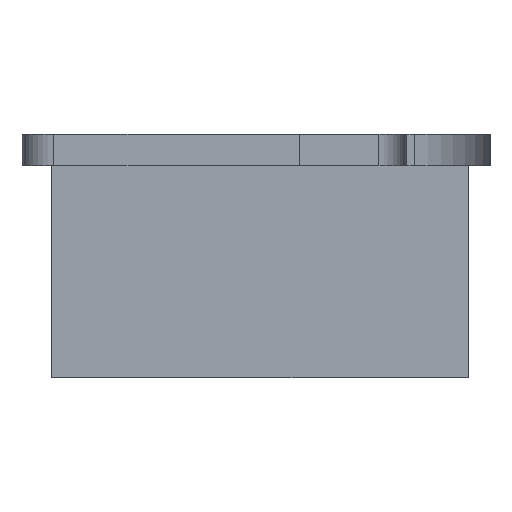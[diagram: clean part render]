
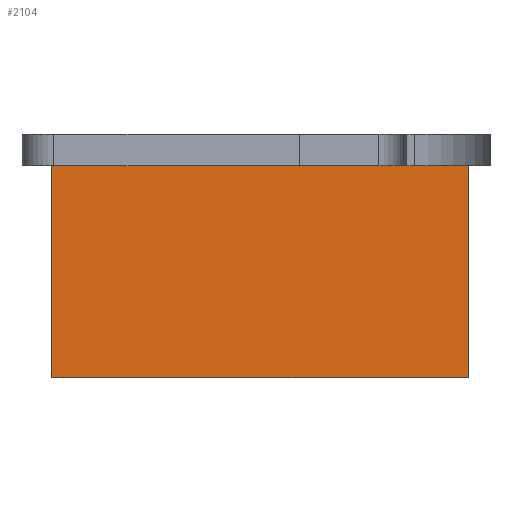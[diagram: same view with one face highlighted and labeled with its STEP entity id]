
A CAD part, left-side view. The second image highlights one B-rep face of the part: STEP entity #2104.
In plain terms, the highlighted planar face has unit normal (-1, 0, 0).
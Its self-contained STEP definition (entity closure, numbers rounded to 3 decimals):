
#126 = PLANE('',#127);
#127 = AXIS2_PLACEMENT_3D('',#128,#129,#130);
#128 = CARTESIAN_POINT('',(-10.,-30.4,5.6));
#129 = DIRECTION('',(0.,0.,1.));
#130 = DIRECTION('',(1.,0.,0.));
#747 = VERTEX_POINT('',#748);
#748 = CARTESIAN_POINT('',(-8.4,-35.75,5.6));
#761 = PLANE('',#762);
#762 = AXIS2_PLACEMENT_3D('',#763,#764,#765);
#763 = CARTESIAN_POINT('',(-8.4,-35.75,0.25));
#764 = DIRECTION('',(0.,1.,0.));
#765 = DIRECTION('',(0.,0.,1.));
#772 = EDGE_CURVE('',#747,#773,#775,.T.);
#773 = VERTEX_POINT('',#774);
#774 = CARTESIAN_POINT('',(-8.4,-25.25,5.6));
#775 = SURFACE_CURVE('',#776,(#780,#786),.PCURVE_S1.);
#776 = LINE('',#777,#778);
#777 = CARTESIAN_POINT('',(-8.4,-33.075,5.6));
#778 = VECTOR('',#779,1.);
#779 = DIRECTION('',(0.,1.,0.));
#780 = PCURVE('',#126,#781);
#781 = DEFINITIONAL_REPRESENTATION('',(#782),#785);
#782 = B_SPLINE_CURVE_WITH_KNOTS('',1,(#783,#784),.UNSPECIFIED.,.F.,.F.,
  (2,2),(-2.675,7.825),.PIECEWISE_BEZIER_KNOTS.);
#783 = CARTESIAN_POINT('',(1.6,-5.35));
#784 = CARTESIAN_POINT('',(1.6,5.15));
#785 = ( GEOMETRIC_REPRESENTATION_CONTEXT(2) 
PARAMETRIC_REPRESENTATION_CONTEXT() REPRESENTATION_CONTEXT('2D SPACE',''
  ) );
#786 = PCURVE('',#787,#792);
#787 = PLANE('',#788);
#788 = AXIS2_PLACEMENT_3D('',#789,#790,#791);
#789 = CARTESIAN_POINT('',(-8.4,-35.75,0.25));
#790 = DIRECTION('',(1.,0.,0.));
#791 = DIRECTION('',(0.,0.,1.));
#792 = DEFINITIONAL_REPRESENTATION('',(#793),#796);
#793 = B_SPLINE_CURVE_WITH_KNOTS('',1,(#794,#795),.UNSPECIFIED.,.F.,.F.,
  (2,2),(-2.675,7.825),.PIECEWISE_BEZIER_KNOTS.);
#794 = CARTESIAN_POINT('',(5.35,0.));
#795 = CARTESIAN_POINT('',(5.35,-10.5));
#796 = ( GEOMETRIC_REPRESENTATION_CONTEXT(2) 
PARAMETRIC_REPRESENTATION_CONTEXT() REPRESENTATION_CONTEXT('2D SPACE',''
  ) );
#813 = PLANE('',#814);
#814 = AXIS2_PLACEMENT_3D('',#815,#816,#817);
#815 = CARTESIAN_POINT('',(-8.4,-25.25,0.25));
#816 = DIRECTION('',(0.,1.,0.));
#817 = DIRECTION('',(0.,0.,1.));
#1998 = PLANE('',#1999);
#1999 = AXIS2_PLACEMENT_3D('',#2000,#2001,#2002);
#2000 = CARTESIAN_POINT('',(-8.4,-35.75,0.25));
#2001 = DIRECTION('',(0.,0.,1.));
#2002 = DIRECTION('',(1.,0.,0.));
#2061 = VERTEX_POINT('',#2062);
#2062 = CARTESIAN_POINT('',(-8.4,-25.25,0.25));
#2083 = EDGE_CURVE('',#2061,#773,#2084,.T.);
#2084 = SURFACE_CURVE('',#2085,(#2089,#2096),.PCURVE_S1.);
#2085 = LINE('',#2086,#2087);
#2086 = CARTESIAN_POINT('',(-8.4,-25.25,0.25));
#2087 = VECTOR('',#2088,1.);
#2088 = DIRECTION('',(0.,0.,1.));
#2089 = PCURVE('',#813,#2090);
#2090 = DEFINITIONAL_REPRESENTATION('',(#2091),#2095);
#2091 = LINE('',#2092,#2093);
#2092 = CARTESIAN_POINT('',(0.,0.));
#2093 = VECTOR('',#2094,1.);
#2094 = DIRECTION('',(1.,0.));
#2095 = ( GEOMETRIC_REPRESENTATION_CONTEXT(2) 
PARAMETRIC_REPRESENTATION_CONTEXT() REPRESENTATION_CONTEXT('2D SPACE',''
  ) );
#2096 = PCURVE('',#787,#2097);
#2097 = DEFINITIONAL_REPRESENTATION('',(#2098),#2102);
#2098 = LINE('',#2099,#2100);
#2099 = CARTESIAN_POINT('',(0.,-10.5));
#2100 = VECTOR('',#2101,1.);
#2101 = DIRECTION('',(1.,0.));
#2102 = ( GEOMETRIC_REPRESENTATION_CONTEXT(2) 
PARAMETRIC_REPRESENTATION_CONTEXT() REPRESENTATION_CONTEXT('2D SPACE',''
  ) );
#2104 = ADVANCED_FACE('',(#2105),#787,.F.);
#2105 = FACE_BOUND('',#2106,.F.);
#2106 = EDGE_LOOP('',(#2107,#2130,#2151,#2152));
#2107 = ORIENTED_EDGE('',*,*,#2108,.F.);
#2108 = EDGE_CURVE('',#2109,#747,#2111,.T.);
#2109 = VERTEX_POINT('',#2110);
#2110 = CARTESIAN_POINT('',(-8.4,-35.75,0.25));
#2111 = SURFACE_CURVE('',#2112,(#2116,#2123),.PCURVE_S1.);
#2112 = LINE('',#2113,#2114);
#2113 = CARTESIAN_POINT('',(-8.4,-35.75,0.25));
#2114 = VECTOR('',#2115,1.);
#2115 = DIRECTION('',(0.,0.,1.));
#2116 = PCURVE('',#787,#2117);
#2117 = DEFINITIONAL_REPRESENTATION('',(#2118),#2122);
#2118 = LINE('',#2119,#2120);
#2119 = CARTESIAN_POINT('',(0.,0.));
#2120 = VECTOR('',#2121,1.);
#2121 = DIRECTION('',(1.,0.));
#2122 = ( GEOMETRIC_REPRESENTATION_CONTEXT(2) 
PARAMETRIC_REPRESENTATION_CONTEXT() REPRESENTATION_CONTEXT('2D SPACE',''
  ) );
#2123 = PCURVE('',#761,#2124);
#2124 = DEFINITIONAL_REPRESENTATION('',(#2125),#2129);
#2125 = LINE('',#2126,#2127);
#2126 = CARTESIAN_POINT('',(0.,0.));
#2127 = VECTOR('',#2128,1.);
#2128 = DIRECTION('',(1.,0.));
#2129 = ( GEOMETRIC_REPRESENTATION_CONTEXT(2) 
PARAMETRIC_REPRESENTATION_CONTEXT() REPRESENTATION_CONTEXT('2D SPACE',''
  ) );
#2130 = ORIENTED_EDGE('',*,*,#2131,.T.);
#2131 = EDGE_CURVE('',#2109,#2061,#2132,.T.);
#2132 = SURFACE_CURVE('',#2133,(#2137,#2144),.PCURVE_S1.);
#2133 = LINE('',#2134,#2135);
#2134 = CARTESIAN_POINT('',(-8.4,-35.75,0.25));
#2135 = VECTOR('',#2136,1.);
#2136 = DIRECTION('',(0.,1.,0.));
#2137 = PCURVE('',#787,#2138);
#2138 = DEFINITIONAL_REPRESENTATION('',(#2139),#2143);
#2139 = LINE('',#2140,#2141);
#2140 = CARTESIAN_POINT('',(0.,0.));
#2141 = VECTOR('',#2142,1.);
#2142 = DIRECTION('',(0.,-1.));
#2143 = ( GEOMETRIC_REPRESENTATION_CONTEXT(2) 
PARAMETRIC_REPRESENTATION_CONTEXT() REPRESENTATION_CONTEXT('2D SPACE',''
  ) );
#2144 = PCURVE('',#1998,#2145);
#2145 = DEFINITIONAL_REPRESENTATION('',(#2146),#2150);
#2146 = LINE('',#2147,#2148);
#2147 = CARTESIAN_POINT('',(0.,0.));
#2148 = VECTOR('',#2149,1.);
#2149 = DIRECTION('',(0.,1.));
#2150 = ( GEOMETRIC_REPRESENTATION_CONTEXT(2) 
PARAMETRIC_REPRESENTATION_CONTEXT() REPRESENTATION_CONTEXT('2D SPACE',''
  ) );
#2151 = ORIENTED_EDGE('',*,*,#2083,.T.);
#2152 = ORIENTED_EDGE('',*,*,#772,.F.);
